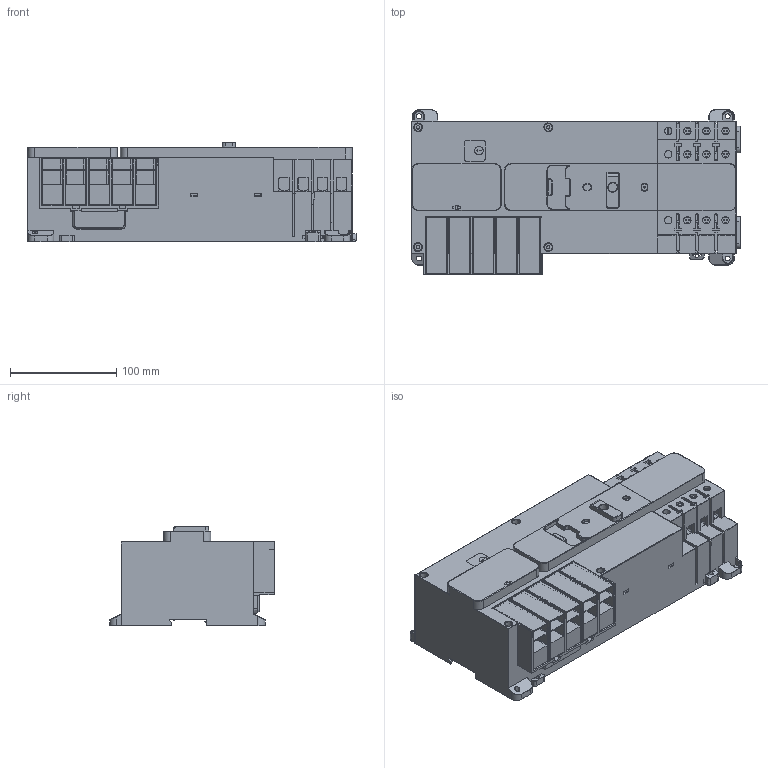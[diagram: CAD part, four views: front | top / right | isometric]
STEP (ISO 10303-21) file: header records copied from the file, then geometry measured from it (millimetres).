
FILE_DESCRIPTION((''),'2;1');
FILE_NAME('R1_IEC_3P_RS_3D-SIMPLIFIED_ASM','2021-12-08T15:40:50',('SESA530330'),('Schneider-Electric'),'CREO PARAMETRIC BY PTC INC, 2019471','CREO PARAMETRIC BY PTC INC, 2019471','');
FILE_SCHEMA(('CONFIG_CONTROL_DESIGN'));
Products named in the file (3): R1_IEC_3P_RS_3D-SIMPLIFIED_26; R1_IEC_3P_RS_3D-SIMPLIFIED_ASM__ASM; R1_IEC_3P_RS_3D-SIMPLIFIED_ASM
Assembly tree (2 placements, depth 3):
  R1_IEC_3P_RS_3D-SIMPLIFIED_ASM
    R1_IEC_3P_RS_3D-SIMPLIFIED_ASM__ASM
      R1_IEC_3P_RS_3D-SIMPLIFIED_26
Bounding box: 310 x 155.3 x 94.25 mm (x, y, z)
Volume: 2967975.4 mm3; surface area: 289690.4 mm2
Topology: 1 solids, 2 shells, 1915 faces, 5238 edges, 3427 vertices
Faces by surface type: plane 1247, cylinder 470, extrusion 92, torus 46, sphere 26, bspline 18, cone 16
Entity records: 63243 total; most frequent: CARTESIAN_POINT 14573, ORIENTED_EDGE 10420, DIRECTION 9503, EDGE_CURVE 5210, VECTOR 3865, LINE 3773, VERTEX_POINT 3427, AXIS2_PLACEMENT_3D 2819
